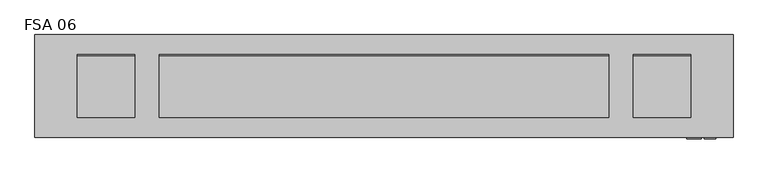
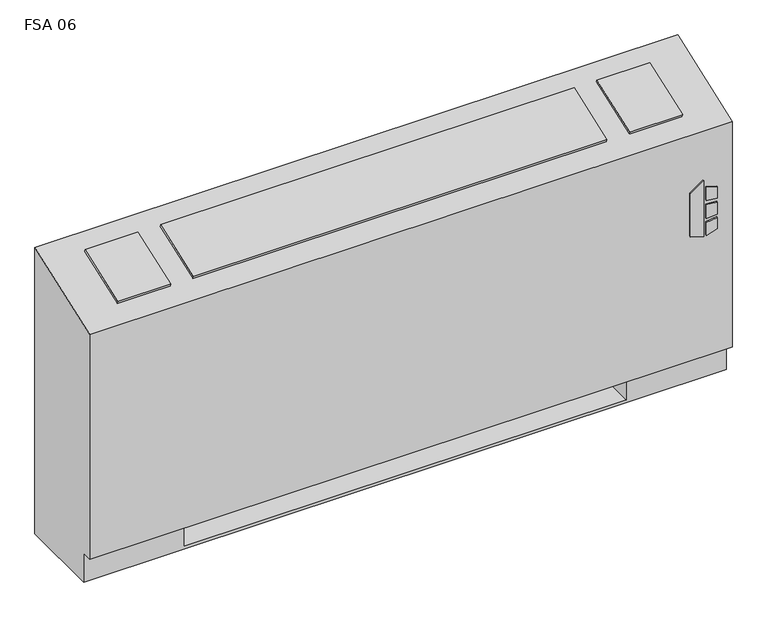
"""IFC4 building model written with IfcOpenShell, lengths in millimetres: proxy geometry, Vertical_Fan_Coil_Unit_-_FSA_-_IEC_-_2-Pipe_TS-FR_RH_2022 : FSA 06."""

from ifc_helpers import new_model, si_unit, point, frame, frame_2d, origin, place, context, project, spatial, polyline, circle_curve, trimmed, segment, composite_curve, outline, extrude, source, transform, mapped, element, save
from ifc_brep_helpers import plane_surface, revolved_surface, advanced_brep


def fsa_06_450f022d(model_context):
    return source(origin(), model_context, "Body", "SolidModel", [
        extrude(outline(polyline([(391.6086829, 823.9868862), (381.6606126, 856.1602728), (523.831537, 856.1602728), (500.8095309, 823.9868862), (391.6086829, 823.9868862)])), frame((0.0, 12.7, 0.0), z_axis=(0.0, 1.0, 0.0), x_axis=(0.0, 0.0, 1.0)), (0.0, 0.0, 1.0), 3.175),
        extrude(outline(polyline([(470.6079683, 862.9186058), (467.4055757, 889.0), (496.6344168, 889.0), (504.6988318, 862.9186058), (470.6079683, 862.9186058)])), frame((0.0, 12.7, 0.0), z_axis=(0.0, 1.0, 0.0), x_axis=(0.0, 0.0, 1.0)), (0.0, 0.0, 1.0), 3.175),
        extrude(outline(polyline([(418.7444414, 889.0), (415.0789404, 862.9186058), (381.6606126, 862.9186058), (390.2948498, 889.0), (418.7444414, 889.0)])), frame((0.0, 12.7, 0.0), z_axis=(0.0, 1.0, 0.0), x_axis=(0.0, 0.0, 1.0)), (0.0, 0.0, 1.0), 3.175),
        extrude(outline(polyline([(458.0596028, 889.0), (460.3414292, 862.9186058), (424.4038806, 862.9186058), (427.1451456, 889.0), (458.0596028, 889.0)])), frame((0.0, 12.7, 0.0), z_axis=(0.0, 1.0, 0.0), x_axis=(0.0, 0.0, 1.0)), (0.0, 0.0, 1.0), 3.175),
        extrude(outline(polyline([(-501.65, 81.534), (-501.65, 223.266), (-381.0, 223.266), (-381.0, 81.534), (-501.65, 81.534)])), frame((0.0, 0.0, 327.025), z_axis=(0.0, 0.0, 1.0), x_axis=(1.0, 0.0, 0.0)), (0.0, 0.0, 1.0), 260.35),
        extrude(outline(composite_curve([segment(trimmed(circle_curve(frame_2d((749.3, 130.175)), 9.525), [point((739.775, 130.175))], [point((758.825, 130.175))], False, "CARTESIAN"), True, "CONTINUOUS"), segment(trimmed(circle_curve(frame_2d((749.3, 130.175)), 9.525), [point((758.825, 130.175))], [point((739.775, 130.175))], False, "CARTESIAN"), True, "CONTINUOUS")], self_intersect=False)), frame((0.0, 0.0, 101.6), z_axis=(0.0, 0.0, 1.0), x_axis=(1.0, 0.0, 0.0)), (0.0, 0.0, 1.0), 25.4),
        extrude(outline(polyline([(850.9, 196.85), (850.9, 63.5), (685.8, 63.5), (685.8, 196.85), (850.9, 196.85)])), frame((0.0, 0.0, 127.0), z_axis=(0.0, 0.0, 1.0), x_axis=(1.0, 0.0, 0.0)), (0.0, 0.0, 1.0), 50.8),
        extrude(outline(polyline([(0.0, -146.0500001), (0.0, 0.0), (127.0, 0.0), (127.0, -146.0500001), (0.0, -146.0500001)])), frame((-528.193, 200.4217127, 714.3418685), z_axis=(0.0, -0.3396444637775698, 0.9405538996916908), x_axis=(1.0, 0.0, 0.0)), (0.0, 0.0, 1.0), 6.35),
        extrude(outline(polyline([(0.0, -146.0500001), (0.0, 0.0), (996.95, 0.0), (996.95, -146.0500001), (0.0, -146.0500001)])), frame((650.875, 63.0538156, 664.7367945), z_axis=(0.0, -0.33964446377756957, 0.9405538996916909), x_axis=(-1.0, 0.0, 0.0)), (0.0, 0.0, 1.0), 6.35),
        extrude(outline(polyline([(0.0, -146.0500001), (0.0, 0.0), (127.0, 0.0), (127.0, -146.0500001), (0.0, -146.0500001)])), frame((832.993, 63.0538156, 664.7367945), z_axis=(0.0, -0.3396444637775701, 0.9405538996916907), x_axis=(-1.0, 0.0, 0.0)), (0.0, 0.0, 1.0), 6.35),
        extrude(outline(composite_curve([segment(trimmed(circle_curve(frame_2d((109.347, 456.819)), 7.9375), [point((109.347, 464.7565))], [point((109.347, 448.8815))], False, "CARTESIAN"), True, "CONTINUOUS"), segment(trimmed(circle_curve(frame_2d((109.347, 456.819)), 7.9375), [point((109.347, 448.8815))], [point((109.347, 464.7565))], False, "CARTESIAN"), True, "CONTINUOUS")], self_intersect=False)), frame((685.8, 0.0, 0.0), z_axis=(1.0, 0.0, 0.0), x_axis=(0.0, 1.0, 0.0)), (0.0, 0.0, 1.0), 50.8),
        extrude(outline(composite_curve([segment(trimmed(circle_curve(frame_2d((157.4546, 429.4632)), 7.9375), [point((157.4546, 437.4007))], [point((157.4546, 421.5257))], False, "CARTESIAN"), True, "CONTINUOUS"), segment(trimmed(circle_curve(frame_2d((157.4546, 429.4632)), 7.9375), [point((157.4546, 421.5257))], [point((157.4546, 437.4007))], False, "CARTESIAN"), True, "CONTINUOUS")], self_intersect=False)), frame((685.8, 0.0, 0.0), z_axis=(1.0, 0.0, 0.0), x_axis=(0.0, 1.0, 0.0)), (0.0, 0.0, 1.0), 50.8),
        advanced_brep(
        [(-622.3, 244.475, 0.0), (927.1, 244.475, 0.0), (927.1, 41.275, 0.0), (-622.3, 41.275, 0.0), (-622.3, 244.475, 730.25), (927.1, 244.475, 730.25), (685.8, 244.475, 73.025), (914.4, 244.475, 73.025), (914.4, 244.475, 654.05), (685.8, 244.475, 654.05), (685.8, 244.475, 414.8650565), (714.375, 244.475, 414.8650565), (714.375, 244.475, 385.2349435), (685.8, 244.475, 385.2349435), (685.8, 244.475, 287.3375), (714.375, 244.475, 287.3375), (714.375, 244.475, 258.7625), (685.8, 244.475, 258.7625), (685.8, 244.475, 141.2875), (714.375, 244.475, 141.2875), (714.375, 244.475, 112.7125), (685.8, 244.475, 112.7125), (-381.0, 244.475, 654.05), (-609.6, 244.475, 654.05), (-609.6, 244.475, 73.025), (-381.0, 244.475, 73.025), (-381.0, 244.475, 112.7125), (-409.575, 244.475, 112.7125), (-409.575, 244.475, 141.2875), (-381.0, 244.475, 141.2875), (-381.0, 244.475, 258.7625), (-409.575, 244.475, 258.7625), (-409.575, 244.475, 287.3375), (-381.0, 244.475, 287.3375), (-381.0, 244.475, 385.2349435), (-409.575, 244.475, 385.2349435), (-409.575, 244.475, 414.8650565), (-381.0, 244.475, 414.8650565), (704.0626, 244.475, 127.0), (692.9374, 244.475, 127.0), (704.0626, 244.475, 400.05), (692.9374, 244.475, 400.05), (704.0626, 244.475, 273.05), (692.9374, 244.475, 273.05), (-388.1374, 244.475, 127.0), (-399.2626, 244.475, 127.0), (-388.1374, 244.475, 273.05), (-399.2626, 244.475, 273.05), (-388.1374, 244.475, 400.05), (-399.2626, 244.475, 400.05), (-622.3, 41.275, 73.025), (-622.3, 15.875, 73.025), (-622.3, 15.875, 647.7), (927.1, 15.875, 73.025), (927.1, 15.875, 647.7), (927.1, 41.275, 73.025), (-381.0, 41.275, 73.025), (-381.0, 225.425, 73.025), (685.8, 225.425, 73.025), (685.8, 41.275, 73.025), (685.8, 41.275, 6.35), (-381.0, 41.275, 6.35), (685.8, 41.275, 654.05), (914.4, 41.275, 654.05), (914.4, 41.275, 73.025), (685.8, 41.275, 73.025), (-381.0, 41.275, 654.05), (-381.0, 41.275, 73.025), (-609.6, 41.275, 73.025), (-609.6, 41.275, 654.05), (685.8, 225.425, 73.025), (685.8, 238.125, 112.7125), (685.8, 238.125, 141.2875), (685.8, 238.125, 258.7625), (685.8, 238.125, 287.3375), (685.8, 238.125, 385.2349435), (685.8, 238.125, 414.8650565), (-381.0, 225.425, 73.025), (-381.0, 238.125, 414.8650565), (-381.0, 238.125, 385.2349435), (-381.0, 238.125, 287.3375), (-381.0, 238.125, 258.7625), (-381.0, 238.125, 141.2875), (-381.0, 238.125, 112.7125), (-381.0, 225.425, 6.35), (685.8, 225.425, 6.35), (714.375, 238.125, 112.7125), (714.375, 238.125, 141.2875), (692.9374, 238.125, 127.0), (704.0626, 238.125, 127.0), (714.375, 238.125, 258.7625), (714.375, 238.125, 287.3375), (692.9374, 238.125, 273.05), (704.0626, 238.125, 273.05), (714.375, 238.125, 385.2349435), (714.375, 238.125, 414.8650565), (692.9374, 238.125, 400.05), (704.0626, 238.125, 400.05), (-409.575, 238.125, 141.2875), (-409.575, 238.125, 112.7125), (-399.2626, 238.125, 127.0), (-388.1374, 238.125, 127.0), (-409.575, 238.125, 287.3375), (-409.575, 238.125, 258.7625), (-399.2626, 238.125, 273.05), (-388.1374, 238.125, 273.05), (-409.575, 238.125, 414.8650565), (-409.575, 238.125, 385.2349435), (-399.2626, 238.125, 400.05), (-388.1374, 238.125, 400.05)],
        [
            (0, 1),
            (1, 2),
            (2, 3),
            (3, 0),
            (0, 4),
            (4, 5),
            (5, 1),
            (6, 7),
            (7, 8),
            (8, 9),
            (9, 10),
            (10, 11),
            (11, 12),
            (12, 13),
            (13, 14),
            (14, 15),
            (15, 16),
            (16, 17),
            (17, 18),
            (18, 19),
            (19, 20),
            (20, 21),
            (21, 6),
            (22, 23),
            (23, 24),
            (24, 25),
            (25, 26),
            (26, 27),
            (27, 28),
            (28, 29),
            (29, 30),
            (30, 31),
            (31, 32),
            (32, 33),
            (33, 34),
            (34, 35),
            (35, 36),
            (36, 37),
            (37, 22),
            (38, 39, circle_curve(frame((698.5, 244.475, 127.0), z_axis=(0.0, -1.0, 0.0), x_axis=(-1.0, 0.0, 0.0)), 5.5626)),
            (39, 38, circle_curve(frame((698.5, 244.475, 127.0), z_axis=(0.0, -1.0, 0.0), x_axis=(-1.0, 0.0, 0.0)), 5.5626)),
            (40, 41, circle_curve(frame((698.5, 244.475, 400.05), z_axis=(0.0, -1.0, 0.0), x_axis=(-1.0, 0.0, 0.0)), 5.5626)),
            (41, 40, circle_curve(frame((698.5, 244.475, 400.05), z_axis=(0.0, -1.0, 0.0), x_axis=(-1.0, 0.0, 0.0)), 5.5626)),
            (42, 43, circle_curve(frame((698.5, 244.475, 273.05), z_axis=(0.0, -1.0, 0.0), x_axis=(-1.0, 0.0, 0.0)), 5.5626)),
            (43, 42, circle_curve(frame((698.5, 244.475, 273.05), z_axis=(0.0, -1.0, 0.0), x_axis=(-1.0, 0.0, 0.0)), 5.5626)),
            (44, 45, circle_curve(frame((-393.7, 244.475, 127.0), z_axis=(0.0, -1.0, 0.0), x_axis=(-1.0, 0.0, 0.0)), 5.5626)),
            (45, 44, circle_curve(frame((-393.7, 244.475, 127.0), z_axis=(0.0, -1.0, 0.0), x_axis=(-1.0, 0.0, 0.0)), 5.5626)),
            (46, 47, circle_curve(frame((-393.7, 244.475, 273.05), z_axis=(0.0, -1.0, 0.0), x_axis=(-1.0, 0.0, 0.0)), 5.5626)),
            (47, 46, circle_curve(frame((-393.7, 244.475, 273.05), z_axis=(0.0, -1.0, 0.0), x_axis=(-1.0, 0.0, 0.0)), 5.5626)),
            (48, 49, circle_curve(frame((-393.7, 244.475, 400.05), z_axis=(0.0, -1.0, 0.0), x_axis=(-1.0, 0.0, 0.0)), 5.5626)),
            (49, 48, circle_curve(frame((-393.7, 244.475, 400.05), z_axis=(0.0, -1.0, 0.0), x_axis=(-1.0, 0.0, 0.0)), 5.5626)),
            (3, 50),
            (50, 51),
            (51, 52),
            (52, 4),
            (51, 53),
            (53, 54),
            (54, 52),
            (5, 54),
            (53, 55),
            (55, 2),
            (50, 56),
            (56, 57),
            (57, 58),
            (58, 59),
            (59, 55),
            (59, 60),
            (60, 61),
            (61, 56),
            (62, 63),
            (63, 64),
            (64, 65),
            (65, 62),
            (66, 67),
            (67, 68),
            (68, 69),
            (69, 66),
            (65, 70),
            (70, 6),
            (21, 71),
            (71, 72),
            (72, 18),
            (17, 73),
            (73, 74),
            (74, 14),
            (13, 75),
            (75, 76),
            (76, 10),
            (9, 62),
            (64, 7),
            (63, 8),
            (69, 23),
            (22, 66),
            (68, 24),
            (67, 77),
            (77, 25),
            (37, 78),
            (78, 79),
            (79, 34),
            (33, 80),
            (80, 81),
            (81, 30),
            (29, 82),
            (82, 83),
            (83, 26),
            (57, 84),
            (84, 85),
            (85, 58),
            (85, 60),
            (84, 61),
            (71, 86),
            (86, 87),
            (87, 72),
            (88, 89, circle_curve(frame((698.5, 238.125, 127.0), z_axis=(0.0, 1.0, 0.0), x_axis=(-1.0, 0.0, 0.0)), 5.5626)),
            (89, 88, circle_curve(frame((698.5, 238.125, 127.0), z_axis=(0.0, 1.0, 0.0), x_axis=(-1.0, 0.0, 0.0)), 5.5626)),
            (73, 90),
            (90, 91),
            (91, 74),
            (92, 93, circle_curve(frame((698.5, 238.125, 273.05), z_axis=(0.0, 1.0, 0.0), x_axis=(-1.0, 0.0, 0.0)), 5.5626)),
            (93, 92, circle_curve(frame((698.5, 238.125, 273.05), z_axis=(0.0, 1.0, 0.0), x_axis=(-1.0, 0.0, 0.0)), 5.5626)),
            (75, 94),
            (94, 95),
            (95, 76),
            (96, 97, circle_curve(frame((698.5, 238.125, 400.05), z_axis=(0.0, 1.0, 0.0), x_axis=(-1.0, 0.0, 0.0)), 5.5626)),
            (97, 96, circle_curve(frame((698.5, 238.125, 400.05), z_axis=(0.0, 1.0, 0.0), x_axis=(-1.0, 0.0, 0.0)), 5.5626)),
            (98, 99),
            (99, 83),
            (82, 98),
            (100, 101, circle_curve(frame((-393.7, 238.125, 127.0), z_axis=(0.0, 1.0, 0.0), x_axis=(-1.0, 0.0, 0.0)), 5.5626)),
            (101, 100, circle_curve(frame((-393.7, 238.125, 127.0), z_axis=(0.0, 1.0, 0.0), x_axis=(-1.0, 0.0, 0.0)), 5.5626)),
            (102, 103),
            (103, 81),
            (80, 102),
            (104, 105, circle_curve(frame((-393.7, 238.125, 273.05), z_axis=(0.0, 1.0, 0.0), x_axis=(-1.0, 0.0, 0.0)), 5.5626)),
            (105, 104, circle_curve(frame((-393.7, 238.125, 273.05), z_axis=(0.0, 1.0, 0.0), x_axis=(-1.0, 0.0, 0.0)), 5.5626)),
            (106, 107),
            (107, 79),
            (78, 106),
            (108, 109, circle_curve(frame((-393.7, 238.125, 400.05), z_axis=(0.0, 1.0, 0.0), x_axis=(-1.0, 0.0, 0.0)), 5.5626)),
            (109, 108, circle_curve(frame((-393.7, 238.125, 400.05), z_axis=(0.0, 1.0, 0.0), x_axis=(-1.0, 0.0, 0.0)), 5.5626)),
            (87, 19),
            (86, 20),
            (91, 15),
            (90, 16),
            (95, 11),
            (94, 12),
            (28, 98),
            (99, 27),
            (32, 102),
            (103, 31),
            (36, 106),
            (107, 35),
            (88, 39),
            (38, 89),
            (96, 41),
            (40, 97),
            (92, 43),
            (42, 93),
            (100, 45),
            (44, 101),
            (104, 47),
            (46, 105),
            (108, 49),
            (48, 109),
        ],
        [
            plane_surface(frame((-622.3, 244.475, 0.0), z_axis=(0.0, 0.0, -1.0), x_axis=(1.0, 0.0, 0.0))),
            plane_surface(frame((927.1, 244.475, 730.25), z_axis=(0.0, 1.0, 0.0), x_axis=(0.0, 0.0, -1.0))),
            plane_surface(frame((-622.3, 244.475, 730.25), z_axis=(-1.0, 0.0, 0.0), x_axis=(0.0, 0.0, -1.0))),
            plane_surface(frame((-622.3, 15.875, 730.25), z_axis=(0.0, -1.0, 0.0), x_axis=(0.0, 0.0, -1.0))),
            plane_surface(frame((927.1, 15.875, 730.25), z_axis=(1.0, 0.0, 0.0), x_axis=(0.0, 0.0, -1.0))),
            plane_surface(frame((-622.3, 15.875, 73.025), z_axis=(0.0, 0.0, -1.0), x_axis=(1.0, 0.0, 0.0))),
            plane_surface(frame((-622.3, 41.275, 73.025), z_axis=(0.0, -1.0, 0.0), x_axis=(1.0, 0.0, 0.0))),
            plane_surface(frame((685.8, 41.275, 654.05), z_axis=(0.0, 1.0, 0.0), x_axis=(0.0, 0.0, -1.0))),
            plane_surface(frame((685.8, 41.275, 654.05), z_axis=(1.0, 0.0, 0.0), x_axis=(0.0, 1.0, 0.0))),
            plane_surface(frame((685.8, 41.275, 73.025), z_axis=(0.0, 0.0, 1.0), x_axis=(0.0, 1.0, 0.0))),
            plane_surface(frame((914.4, 41.275, 73.025), z_axis=(-1.0, 0.0, 0.0), x_axis=(0.0, 1.0, 0.0))),
            plane_surface(frame((914.4, 41.275, 654.05), z_axis=(0.0, 0.0, -1.0), x_axis=(0.0, 1.0, 0.0))),
            plane_surface(frame((-381.0, 41.275, 654.05), z_axis=(0.0, 0.0, -1.0), x_axis=(0.0, 1.0, 0.0))),
            plane_surface(frame((-609.6, 41.275, 654.05), z_axis=(1.0, 0.0, 0.0), x_axis=(0.0, 1.0, 0.0))),
            plane_surface(frame((-609.6, 41.275, 73.025), z_axis=(0.0, 0.0, 1.0), x_axis=(0.0, 1.0, 0.0))),
            plane_surface(frame((-381.0, 41.275, 73.025), z_axis=(-1.0, 0.0, 0.0), x_axis=(0.0, 1.0, 0.0))),
            plane_surface(frame((685.8, 225.425, 73.025), z_axis=(0.0, -1.0, 0.0), x_axis=(0.0, 0.0, -1.0))),
            plane_surface(frame((685.8, 225.425, 73.025), z_axis=(-1.0, 0.0, 0.0), x_axis=(0.0, -1.0, 0.0))),
            plane_surface(frame((685.8, 225.425, 6.35), z_axis=(0.0, 0.0, 1.0), x_axis=(0.0, -1.0, 0.0))),
            plane_surface(frame((-381.0, 225.425, 6.35), z_axis=(1.0, 0.0, 0.0), x_axis=(0.0, -1.0, 0.0))),
            plane_surface(frame((714.375, 238.125, 141.2875), z_axis=(0.0, -1.0, 0.0), x_axis=(-1.0, 0.0, 0.0))),
            plane_surface(frame((685.8, 244.475, 141.2875), z_axis=(0.0, 0.0, 1.0), x_axis=(0.0, -1.0, 0.0))),
            plane_surface(frame((714.375, 244.475, 141.2875), z_axis=(1.0, 0.0, 0.0), x_axis=(0.0, -1.0, 0.0))),
            plane_surface(frame((714.375, 244.475, 112.7125), z_axis=(0.0, 0.0, -1.0), x_axis=(0.0, -1.0, 0.0))),
            plane_surface(frame((685.8, 244.475, 287.3375), z_axis=(0.0, 0.0, 1.0), x_axis=(0.0, -1.0, 0.0))),
            plane_surface(frame((714.375, 244.475, 287.3375), z_axis=(1.0, 0.0, 0.0), x_axis=(0.0, -1.0, 0.0))),
            plane_surface(frame((714.375, 244.475, 258.7625), z_axis=(0.0, 0.0, -1.0), x_axis=(0.0, -1.0, 0.0))),
            plane_surface(frame((685.8, 244.475, 414.8650565), z_axis=(0.0, 0.0, 1.0), x_axis=(0.0, -1.0, 0.0))),
            plane_surface(frame((714.375, 244.475, 414.8650565), z_axis=(1.0, 0.0, 0.0), x_axis=(0.0, -1.0, 0.0))),
            plane_surface(frame((714.375, 244.475, 385.2349435), z_axis=(0.0, 0.0, -1.0), x_axis=(0.0, -1.0, 0.0))),
            plane_surface(frame((-409.575, 244.475, 141.2875), z_axis=(0.0, 0.0, 1.0), x_axis=(0.0, -1.0, 0.0))),
            plane_surface(frame((-381.0, 244.475, 112.7125), z_axis=(0.0, 0.0, -1.0), x_axis=(0.0, -1.0, 0.0))),
            plane_surface(frame((-409.575, 244.475, 112.7125), z_axis=(-1.0, 0.0, 0.0), x_axis=(0.0, -1.0, 0.0))),
            plane_surface(frame((-409.575, 244.475, 287.3375), z_axis=(0.0, 0.0, 1.0), x_axis=(0.0, -1.0, 0.0))),
            plane_surface(frame((-381.0, 244.475, 258.7625), z_axis=(0.0, 0.0, -1.0), x_axis=(0.0, -1.0, 0.0))),
            plane_surface(frame((-409.575, 244.475, 258.7625), z_axis=(-1.0, 0.0, 0.0), x_axis=(0.0, -1.0, 0.0))),
            plane_surface(frame((-409.575, 244.475, 414.8650565), z_axis=(0.0, 0.0, 1.0), x_axis=(0.0, -1.0, 0.0))),
            plane_surface(frame((-381.0, 244.475, 385.2349435), z_axis=(0.0, 0.0, -1.0), x_axis=(0.0, -1.0, 0.0))),
            plane_surface(frame((-409.575, 244.475, 385.2349435), z_axis=(-1.0, 0.0, 0.0), x_axis=(0.0, -1.0, 0.0))),
            revolved_surface(polyline([(692.9374, 238.125, 127.0), (692.9374, 244.475, 127.0)]), (698.5, 244.475, 127.0), (0.0, -1.0, 0.0)),
            revolved_surface(polyline([(692.9374, 238.125, 400.05), (692.9374, 244.475, 400.05)]), (698.5, 244.475, 400.05), (0.0, -1.0, 0.0)),
            revolved_surface(polyline([(692.9374, 238.125, 273.05), (692.9374, 244.475, 273.05)]), (698.5, 244.475, 273.05), (0.0, -1.0, 0.0)),
            revolved_surface(polyline([(-399.26259999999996, 238.125, 127.0), (-399.26259999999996, 244.475, 127.0)]), (-393.7, 244.475, 127.0), (0.0, -1.0, 0.0)),
            revolved_surface(polyline([(-399.26259999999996, 238.125, 273.05), (-399.26259999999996, 244.475, 273.05)]), (-393.7, 244.475, 273.05), (0.0, -1.0, 0.0)),
            revolved_surface(polyline([(-399.26259999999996, 238.125, 400.05), (-399.26259999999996, 244.475, 400.05)]), (-393.7, 244.475, 400.05), (0.0, -1.0, 0.0)),
            plane_surface(frame((-622.3, 244.475, 730.25), z_axis=(0.0, -0.33964446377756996, 0.9405538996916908), x_axis=(1.0, 0.0, 0.0))),
        ],
        [
            (0, [[1, 2, 3, 4]]),
            (1, [[-1, 5, 6, 7], [8, 9, 10, 11, 12, 13, 14, 15, 16, 17, 18, 19, 20, 21, 22, 23], [24, 25, 26, 27, 28, 29, 30, 31, 32, 33, 34, 35, 36, 37, 38, 39], [40, 41], [42, 43], [44, 45], [46, 47], [48, 49], [50, 51]]),
            (2, [[-5, -4, 52, 53, 54, 55]]),
            (3, [[56, 57, 58, -54]]),
            (4, [[-7, 59, -57, 60, 61, -2]]),
            (5, [[-53, 62, 63, 64, 65, 66, -60, -56]]),
            (6, [[-3, -61, -66, 67, 68, 69, -62, -52]]),
            (7, [[70, 71, 72, 73]]),
            (7, [[74, 75, 76, 77]]),
            (8, [[-73, 78, 79, -23, 80, 81, 82, -19, 83, 84, 85, -15, 86, 87, 88, -11, 89]]),
            (9, [[-72, 90, -8, -79, -78]]),
            (10, [[-71, 91, -9, -90]]),
            (11, [[-70, -89, -10, -91]]),
            (12, [[-77, 92, -24, 93]]),
            (13, [[-76, 94, -25, -92]]),
            (14, [[-75, 95, 96, -26, -94]]),
            (15, [[-74, -93, -39, 97, 98, 99, -35, 100, 101, 102, -31, 103, 104, 105, -27, -96, -95]]),
            (16, [[-64, 106, 107, 108]]),
            (17, [[-108, 109, -67, -65]]),
            (18, [[-107, 110, -68, -109]]),
            (19, [[-106, -63, -69, -110]]),
            (20, [[111, 112, 113, -81], [114, 115]]),
            (20, [[116, 117, 118, -84], [119, 120]]),
            (20, [[121, 122, 123, -87], [124, 125]]),
            (20, [[126, 127, -104, 128], [129, 130]]),
            (20, [[131, 132, -101, 133], [134, 135]]),
            (20, [[136, 137, -98, 138], [139, 140]]),
            (21, [[-113, 141, -20, -82]]),
            (22, [[-112, 142, -21, -141]]),
            (23, [[-111, -80, -22, -142]]),
            (24, [[-118, 143, -16, -85]]),
            (25, [[-117, 144, -17, -143]]),
            (26, [[-116, -83, -18, -144]]),
            (27, [[-123, 145, -12, -88]]),
            (28, [[-122, 146, -13, -145]]),
            (29, [[-121, -86, -14, -146]]),
            (30, [[-128, -103, -30, 147]]),
            (31, [[-127, 148, -28, -105]]),
            (32, [[-126, -147, -29, -148]]),
            (33, [[-133, -100, -34, 149]]),
            (34, [[-132, 150, -32, -102]]),
            (35, [[-131, -149, -33, -150]]),
            (36, [[-138, -97, -38, 151]]),
            (37, [[-137, 152, -36, -99]]),
            (38, [[-136, -151, -37, -152]]),
            (39, [[153, -40, 154, -114]]),
            (39, [[-153, -115, -154, -41]]),
            (40, [[155, -42, 156, -124]]),
            (40, [[-155, -125, -156, -43]]),
            (41, [[157, -44, 158, -119]]),
            (41, [[-157, -120, -158, -45]]),
            (42, [[159, -46, 160, -129]]),
            (42, [[-159, -130, -160, -47]]),
            (43, [[161, -48, 162, -134]]),
            (43, [[-161, -135, -162, -49]]),
            (44, [[163, -50, 164, -139]]),
            (44, [[-163, -140, -164, -51]]),
            (45, [[-6, -55, -58, -59]]),
        ],
    ),
    ])


if __name__ == "__main__":
    model = new_model("IFC4")
    model_context = context("Model", 3, world=origin())
    ifc_project = project(units=[si_unit("LENGTHUNIT", "METRE", prefix="MILLI")], contexts=[model_context])
    site = spatial("IfcSite", under=ifc_project)
    building = spatial("IfcBuilding", under=site)
    placement = place(None, origin())
    fsa_06_shape = fsa_06_450f022d(model_context)
    element("IfcBuildingElementProxy", 1, Name="Vertical_Fan_Coil_Unit_-_FSA_-_IEC_-_2-Pipe_TS-FR_RH_2022 : FSA 06", ObjectType="Vertical_Fan_Coil_Unit_-_FSA_-_IEC_-_2-Pipe_TS-FR_RH_2022 : FSA 06", at=placement, inside=building, context=model_context, shape_type="MappedRepresentation", body=[
        mapped(fsa_06_shape, transform((0.0, 0.0, 0.0), x_axis=(1.0, 0.0, 0.0), y_axis=(0.0, 1.0, 0.0), z_axis=(0.0, 0.0, 1.0))),
    ])
    save(model, "model.ifc")
